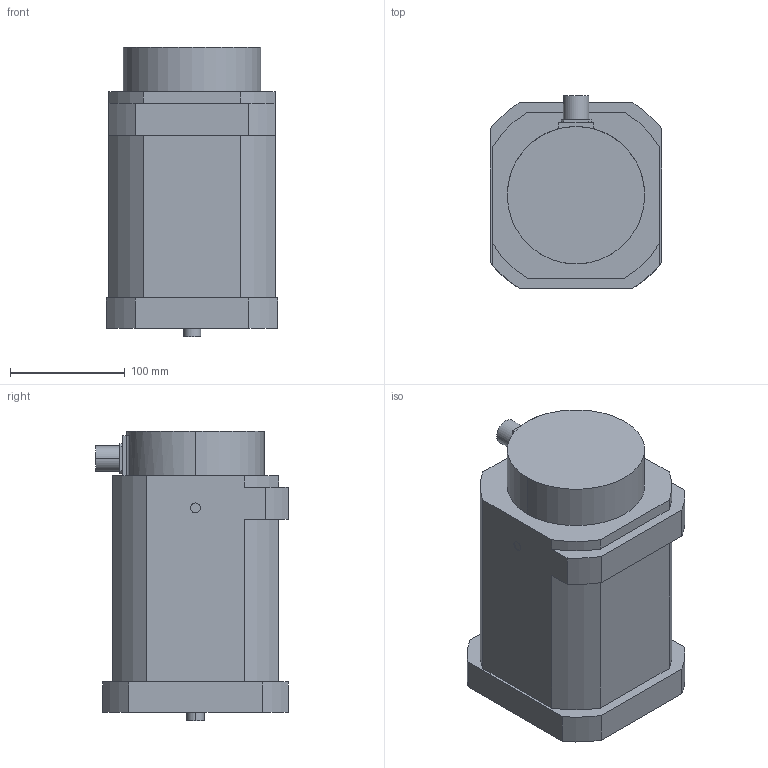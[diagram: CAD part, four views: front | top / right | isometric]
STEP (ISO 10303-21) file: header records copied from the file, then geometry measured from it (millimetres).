
FILE_DESCRIPTION (( 'STEP AP203' ), '1' );
FILE_NAME ('dianji.STEP', '2023-04-18T02:27:31', ( '' ), ( '' ), 'SwSTEP 2.0', 'SolidWorks 2016', '' );
FILE_SCHEMA (( 'CONFIG_CONTROL_DESIGN' ));
Length unit declared in the file: millimetre
Products named in the file (1): dianji
Bounding box: 150 x 168.02 x 253 mm (x, y, z)
Volume: 4632928.8 mm3; surface area: 174732 mm2
Topology: 1 solids, 1 shells, 54 faces, 138 edges, 92 vertices
Faces by surface type: plane 32, cylinder 22
Entity records: 1725 total; most frequent: DIRECTION 294, CARTESIAN_POINT 285, ORIENTED_EDGE 276, EDGE_CURVE 138, AXIS2_PLACEMENT_3D 101, LINE 92, VECTOR 92, VERTEX_POINT 92
